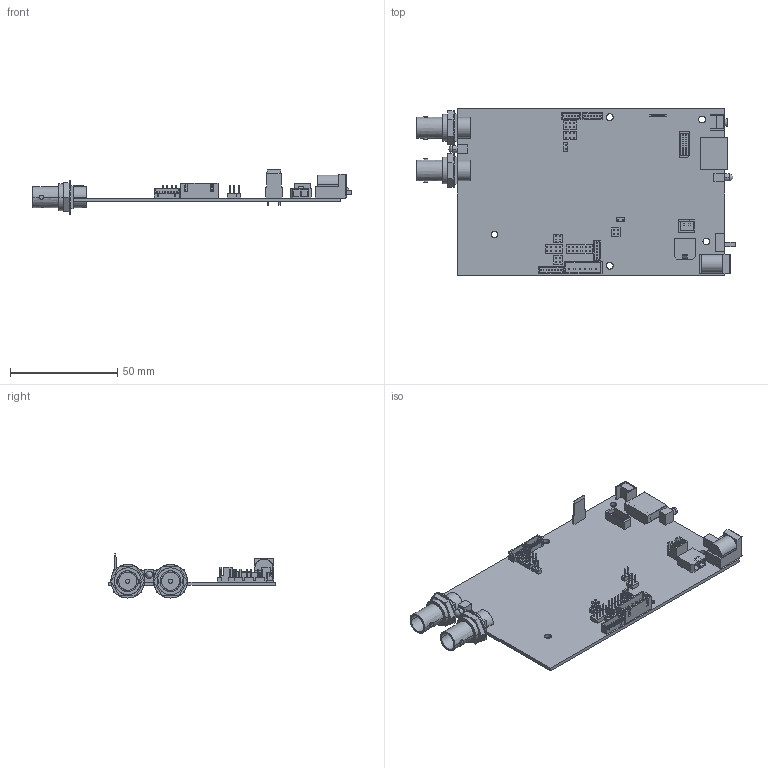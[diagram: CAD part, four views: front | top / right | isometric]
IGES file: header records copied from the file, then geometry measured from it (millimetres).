
Start section: SolidWorks IGES file using analytic representation for surfaces
Global section: file name: Y:\JasonTse\3D-drawing\HD-3000S_2010-08-12\HD3000S.IGS; native system: SolidWorks 2011; preprocessor: SolidWorks 2011; author: johnny; date: 130315.101412; units: millimetre
Bounding box: 148.7 x 77.6 x 20.55 mm (x, y, z)
Surface area: 31142.3 mm2 (no closed solid volume)
Topology: 0 solids, 0 shells, 1043 faces, 6786 edges, 6772 vertices
Faces by surface type: bspline 965, revolution 78
